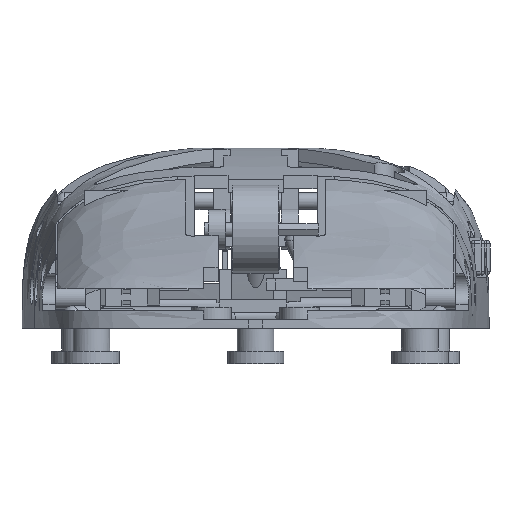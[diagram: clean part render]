
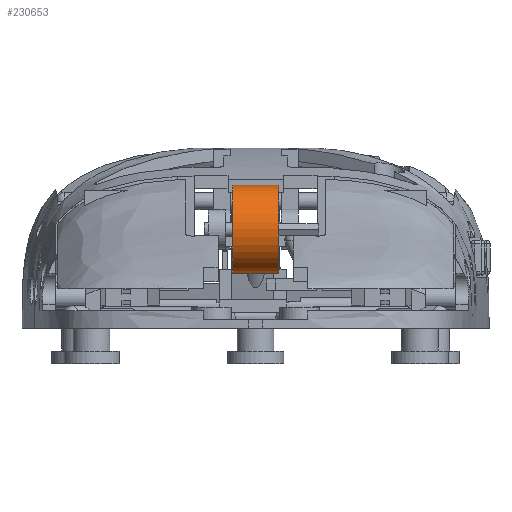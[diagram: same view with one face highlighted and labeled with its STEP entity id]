
A CAD part, front view. The second image highlights one B-rep face of the part: STEP entity #230653.
In plain terms, the highlighted cylindrical face has radius 6.25 mm (diameter 12.5 mm), a full revolution.
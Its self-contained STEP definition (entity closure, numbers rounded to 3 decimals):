
#230653 = ADVANCED_FACE('',(#230654),#230668,.T.);
#230654 = FACE_BOUND('',#230655,.T.);
#230655 = EDGE_LOOP('',(#230656,#230686,#230717,#230718));
#230656 = ORIENTED_EDGE('',*,*,#230657,.F.);
#230657 = EDGE_CURVE('',#230658,#230660,#230662,.T.);
#230658 = VERTEX_POINT('',#230659);
#230659 = CARTESIAN_POINT('',(3.25,28.,25.25));
#230660 = VERTEX_POINT('',#230661);
#230661 = CARTESIAN_POINT('',(-3.25,28.,25.25));
#230662 = SEAM_CURVE('',#230663,(#230667,#230679),.PCURVE_S1.);
#230663 = LINE('',#230664,#230665);
#230664 = CARTESIAN_POINT('',(3.25,28.,25.25));
#230665 = VECTOR('',#230666,1.);
#230666 = DIRECTION('',(-1.,-0.,-0.));
#230667 = PCURVE('',#230668,#230673);
#230668 = CYLINDRICAL_SURFACE('',#230669,6.25);
#230669 = AXIS2_PLACEMENT_3D('',#230670,#230671,#230672);
#230670 = CARTESIAN_POINT('',(3.25,28.,19.));
#230671 = DIRECTION('',(-1.,-0.,-0.));
#230672 = DIRECTION('',(-0.,0.,1.));
#230673 = DEFINITIONAL_REPRESENTATION('',(#230674),#230678);
#230674 = LINE('',#230675,#230676);
#230675 = CARTESIAN_POINT('',(0.,0.));
#230676 = VECTOR('',#230677,1.);
#230677 = DIRECTION('',(-0.,1.));
#230678 = ( GEOMETRIC_REPRESENTATION_CONTEXT(2) 
PARAMETRIC_REPRESENTATION_CONTEXT() REPRESENTATION_CONTEXT('2D SPACE',''
  ) );
#230679 = PCURVE('',#230668,#230680);
#230680 = DEFINITIONAL_REPRESENTATION('',(#230681),#230685);
#230681 = LINE('',#230682,#230683);
#230682 = CARTESIAN_POINT('',(6.283,0.));
#230683 = VECTOR('',#230684,1.);
#230684 = DIRECTION('',(-0.,1.));
#230685 = ( GEOMETRIC_REPRESENTATION_CONTEXT(2) 
PARAMETRIC_REPRESENTATION_CONTEXT() REPRESENTATION_CONTEXT('2D SPACE',''
  ) );
#230686 = ORIENTED_EDGE('',*,*,#230687,.F.);
#230687 = EDGE_CURVE('',#230658,#230658,#230688,.T.);
#230688 = SURFACE_CURVE('',#230689,(#230694,#230701),.PCURVE_S1.);
#230689 = CIRCLE('',#230690,6.25);
#230690 = AXIS2_PLACEMENT_3D('',#230691,#230692,#230693);
#230691 = CARTESIAN_POINT('',(3.25,28.,19.));
#230692 = DIRECTION('',(1.,0.,0.));
#230693 = DIRECTION('',(-0.,0.,1.));
#230694 = PCURVE('',#230668,#230695);
#230695 = DEFINITIONAL_REPRESENTATION('',(#230696),#230700);
#230696 = LINE('',#230697,#230698);
#230697 = CARTESIAN_POINT('',(6.283,0.));
#230698 = VECTOR('',#230699,1.);
#230699 = DIRECTION('',(-1.,0.));
#230700 = ( GEOMETRIC_REPRESENTATION_CONTEXT(2) 
PARAMETRIC_REPRESENTATION_CONTEXT() REPRESENTATION_CONTEXT('2D SPACE',''
  ) );
#230701 = PCURVE('',#230702,#230707);
#230702 = PLANE('',#230703);
#230703 = AXIS2_PLACEMENT_3D('',#230704,#230705,#230706);
#230704 = CARTESIAN_POINT('',(3.25,28.,19.));
#230705 = DIRECTION('',(-1.,-0.,-0.));
#230706 = DIRECTION('',(0.,0.,-1.));
#230707 = DEFINITIONAL_REPRESENTATION('',(#230708),#230716);
#230708 = ( BOUNDED_CURVE() B_SPLINE_CURVE(2,(#230709,#230710,#230711,
    #230712,#230713,#230714,#230715),.UNSPECIFIED.,.T.,.F.) 
B_SPLINE_CURVE_WITH_KNOTS((1,2,2,2,2,1),(-2.094,0.,
    2.094,4.189,6.283,8.378),
.UNSPECIFIED.) CURVE() GEOMETRIC_REPRESENTATION_ITEM() 
RATIONAL_B_SPLINE_CURVE((1.,0.5,1.,0.5,1.,0.5,1.)) REPRESENTATION_ITEM(
  '') );
#230709 = CARTESIAN_POINT('',(-6.25,0.));
#230710 = CARTESIAN_POINT('',(-6.25,10.825));
#230711 = CARTESIAN_POINT('',(3.125,5.413));
#230712 = CARTESIAN_POINT('',(12.5,0.));
#230713 = CARTESIAN_POINT('',(3.125,-5.413));
#230714 = CARTESIAN_POINT('',(-6.25,-10.825));
#230715 = CARTESIAN_POINT('',(-6.25,0.));
#230716 = ( GEOMETRIC_REPRESENTATION_CONTEXT(2) 
PARAMETRIC_REPRESENTATION_CONTEXT() REPRESENTATION_CONTEXT('2D SPACE',''
  ) );
#230717 = ORIENTED_EDGE('',*,*,#230657,.T.);
#230718 = ORIENTED_EDGE('',*,*,#230719,.T.);
#230719 = EDGE_CURVE('',#230660,#230660,#230720,.T.);
#230720 = SURFACE_CURVE('',#230721,(#230726,#230733),.PCURVE_S1.);
#230721 = CIRCLE('',#230722,6.25);
#230722 = AXIS2_PLACEMENT_3D('',#230723,#230724,#230725);
#230723 = CARTESIAN_POINT('',(-3.25,28.,19.));
#230724 = DIRECTION('',(1.,0.,0.));
#230725 = DIRECTION('',(-0.,0.,1.));
#230726 = PCURVE('',#230668,#230727);
#230727 = DEFINITIONAL_REPRESENTATION('',(#230728),#230732);
#230728 = LINE('',#230729,#230730);
#230729 = CARTESIAN_POINT('',(6.283,6.5));
#230730 = VECTOR('',#230731,1.);
#230731 = DIRECTION('',(-1.,0.));
#230732 = ( GEOMETRIC_REPRESENTATION_CONTEXT(2) 
PARAMETRIC_REPRESENTATION_CONTEXT() REPRESENTATION_CONTEXT('2D SPACE',''
  ) );
#230733 = PCURVE('',#230734,#230739);
#230734 = PLANE('',#230735);
#230735 = AXIS2_PLACEMENT_3D('',#230736,#230737,#230738);
#230736 = CARTESIAN_POINT('',(-3.25,28.,19.));
#230737 = DIRECTION('',(-1.,-0.,-0.));
#230738 = DIRECTION('',(0.,0.,-1.));
#230739 = DEFINITIONAL_REPRESENTATION('',(#230740),#230748);
#230740 = ( BOUNDED_CURVE() B_SPLINE_CURVE(2,(#230741,#230742,#230743,
    #230744,#230745,#230746,#230747),.UNSPECIFIED.,.T.,.F.) 
B_SPLINE_CURVE_WITH_KNOTS((1,2,2,2,2,1),(-2.094,0.,
    2.094,4.189,6.283,8.378),
.UNSPECIFIED.) CURVE() GEOMETRIC_REPRESENTATION_ITEM() 
RATIONAL_B_SPLINE_CURVE((1.,0.5,1.,0.5,1.,0.5,1.)) REPRESENTATION_ITEM(
  '') );
#230741 = CARTESIAN_POINT('',(-6.25,0.));
#230742 = CARTESIAN_POINT('',(-6.25,10.825));
#230743 = CARTESIAN_POINT('',(3.125,5.413));
#230744 = CARTESIAN_POINT('',(12.5,0.));
#230745 = CARTESIAN_POINT('',(3.125,-5.413));
#230746 = CARTESIAN_POINT('',(-6.25,-10.825));
#230747 = CARTESIAN_POINT('',(-6.25,0.));
#230748 = ( GEOMETRIC_REPRESENTATION_CONTEXT(2) 
PARAMETRIC_REPRESENTATION_CONTEXT() REPRESENTATION_CONTEXT('2D SPACE',''
  ) );
